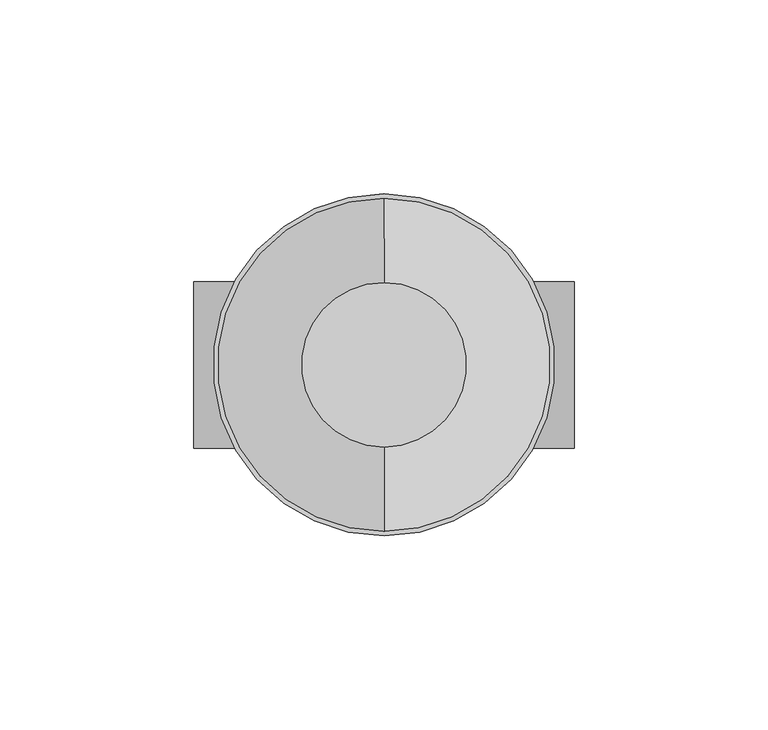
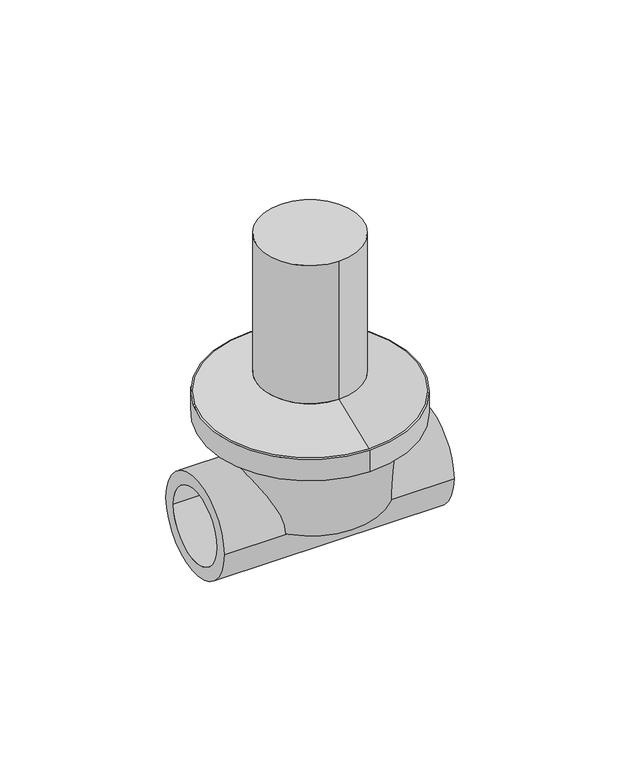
"""IFC4 building model written with IfcOpenShell, lengths in millimetres: valve geometry, Aquatherm - Concealed Valve Standard Tamper Proof : STANDARD TAMPER PROOF."""

from ifc_helpers import new_model, si_unit, point, frame, origin, origin_2d, place, context, project, spatial, polyline, circle_curve, trimmed, segment, composite_curve, outline, extrude, source, transform, mapped, element, save
from ifc_brep_helpers import plane_surface, cylinder_surface, revolved_surface, advanced_brep


def valve_57dc3b10(model_context):
    return source(origin(), model_context, "Body", "SolidModel", [
        extrude(outline(composite_curve([segment(trimmed(circle_curve(origin_2d(), 44.069), [point((0.0, 44.069))], [point((0.0, -44.069))], False, "CARTESIAN"), True, "CONTINUOUS"), segment(trimmed(circle_curve(origin_2d(), 44.069), [point((0.0, -44.069))], [point((0.0, 44.069))], False, "CARTESIAN"), True, "CONTINUOUS")], self_intersect=False)), frame((0.0, 0.0, 34.036), z_axis=(0.0, 0.0, 1.0), x_axis=(1.0, 0.0, 0.0)), (0.0, 0.0, 1.0), 9.652),
        extrude(outline(composite_curve([segment(trimmed(circle_curve(origin_2d(), 21.209), [point((0.0, 21.209))], [point((0.0, -21.209))], False, "CARTESIAN"), True, "CONTINUOUS"), segment(trimmed(circle_curve(origin_2d(), 21.209), [point((0.0, -21.209))], [point((0.0, 21.209))], False, "CARTESIAN"), True, "CONTINUOUS")], self_intersect=False)), frame((0.0, 0.0, 52.832), z_axis=(0.0, 0.0, 1.0), x_axis=(1.0, 0.0, 0.0)), (0.0, 0.0, 1.0), 62.23),
        advanced_brep(
        [(0.0, 21.209, 52.832), (0.0, -21.209, 52.832), (0.0, 44.069, 43.688), (0.0, -44.069, 43.688)],
        [
            (0, 1, circle_curve(frame((0.0, 0.0, 52.832), z_axis=(0.0, 0.0, 1.0), x_axis=(0.0, 1.0, 0.0)), 21.209)),
            (1, 0, circle_curve(frame((0.0, 0.0, 52.832), z_axis=(0.0, 0.0, 1.0), x_axis=(0.0, -1.0, 0.0)), 21.209)),
            (2, 3, circle_curve(frame((0.0, 0.0, 43.688), z_axis=(0.0, 0.0, -1.0), x_axis=(0.0, -1.0, 0.0)), 44.069)),
            (3, 2, circle_curve(frame((0.0, 0.0, 43.688), z_axis=(0.0, 0.0, -1.0), x_axis=(0.0, 1.0, 0.0)), 44.069)),
            (3, 1),
            (0, 2),
        ],
        [
            plane_surface(frame((0.0, 0.0, 52.832), z_axis=(0.0, 0.0, 1.0), x_axis=(-1.0, 0.0, 0.0))),
            plane_surface(frame((0.0, 0.0, 43.688), z_axis=(0.0, 0.0, -1.0), x_axis=(-1.0, 0.0, 0.0))),
            revolved_surface(polyline([(0.0, 21.209000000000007, 52.832), (0.0, 44.069, 43.688)]), (0.0, 0.0, 61.3156), (0.0, 0.0, -1.0)),
            revolved_surface(polyline([(0.0, -21.209000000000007, 52.832), (0.0, -44.069, 43.688)]), (0.0, 0.0, 61.3156), (0.0, 0.0, -1.0)),
        ],
        [
            (0, [[1, 2]]),
            (1, [[3, 4]]),
            (2, [[-4, 5, -1, 6]]),
            (3, [[-3, -6, -2, -5]]),
        ],
    ),
        advanced_brep(
        [(0.0, 0.0, 34.036), (30.988, 0.0, 34.036), (-30.988, 0.0, 34.036), (-30.988, 0.0, 0.0), (30.988, 0.0, 0.0), (0.0, 0.0, 0.0)],
        [
            (0, 1),
            (1, 2, circle_curve(frame((0.0, 0.0, 34.036), z_axis=(0.0, 0.0, 1.0), x_axis=(1.0, 0.0, 0.0)), 30.988)),
            (2, 0),
            (2, 1, circle_curve(frame((0.0, 0.0, 34.036), z_axis=(0.0, 0.0, 1.0), x_axis=(1.0, 0.0, 0.0)), 30.988)),
            (3, 4, circle_curve(frame((0.0, 0.0, 0.0), z_axis=(0.0, 0.0, -1.0), x_axis=(1.0, 0.0, 0.0)), 30.988)),
            (4, 5),
            (5, 3),
            (4, 3, circle_curve(frame((0.0, 0.0, 0.0), z_axis=(0.0, 0.0, -1.0), x_axis=(1.0, 0.0, 0.0)), 30.988)),
            (1, 4),
            (3, 2),
        ],
        [
            plane_surface(frame((0.0, 0.0, 34.036), z_axis=(0.0, 0.0, 1.0), x_axis=(1.0, 0.0, 0.0))),
            plane_surface(frame((0.0, 0.0, 0.0), z_axis=(0.0, 0.0, -1.0), x_axis=(1.0, 0.0, 0.0))),
            cylinder_surface(frame((0.0, 0.0, 50.8044809), z_axis=(0.0, 0.0, 1.0), x_axis=(1.0, 0.0, 0.0)), 30.988),
        ],
        [
            (0, [[1, 2, 3]]),
            (0, [[-3, 4, -1]]),
            (1, [[5, 6, 7]]),
            (1, [[8, -7, -6]]),
            (2, [[-2, 9, -5, 10]]),
            (2, [[-4, -10, -8, -9]]),
        ],
    ),
        extrude(outline(composite_curve([segment(trimmed(circle_curve(origin_2d(), 21.463), [point((-21.463, 0.0))], [point((21.463, 0.0))], False, "CARTESIAN"), True, "CONTINUOUS"), segment(trimmed(circle_curve(origin_2d(), 21.463), [point((21.463, 0.0))], [point((-21.463, 0.0))], False, "CARTESIAN"), True, "CONTINUOUS")], self_intersect=False), holes=[composite_curve([segment(trimmed(circle_curve(origin_2d(), 16.002), [point((-16.002, 0.0))], [point((16.002, 0.0))], True, "CARTESIAN"), True, "CONTINUOUS"), segment(trimmed(circle_curve(origin_2d(), 16.002), [point((16.002, 0.0))], [point((-16.002, 0.0))], True, "CARTESIAN"), True, "CONTINUOUS")], self_intersect=False)]), frame((-49.022, 0.0, 0.0), z_axis=(1.0, 0.0, 0.0), x_axis=(0.0, 1.0, 0.0)), (0.0, 0.0, 1.0), 98.044),
    ])


if __name__ == "__main__":
    model = new_model("IFC4")
    model_context = context("Model", 3, world=origin())
    ifc_project = project(units=[si_unit("LENGTHUNIT", "METRE", prefix="MILLI")], contexts=[model_context])
    site = spatial("IfcSite", under=ifc_project)
    building = spatial("IfcBuilding", under=site)
    placement = place(None, origin())
    valve_shape = valve_57dc3b10(model_context)
    element("IfcValve", 1, ObjectType="Aquatherm - Concealed Valve Standard Tamper Proof : STANDARD TAMPER PROOF", at=placement, inside=building, context=model_context, shape_type="MappedRepresentation", body=[
        mapped(valve_shape, transform((0.0, 0.0, 0.0), x_axis=(1.0, 0.0, 0.0), y_axis=(0.0, 1.0, 0.0), z_axis=(0.0, 0.0, 1.0))),
    ])
    save(model, "model.ifc")
